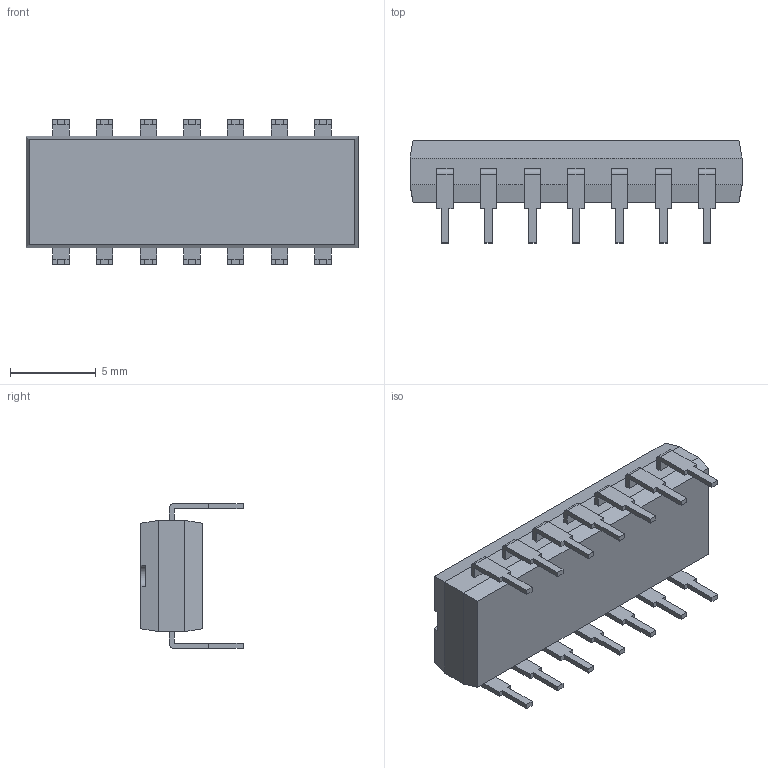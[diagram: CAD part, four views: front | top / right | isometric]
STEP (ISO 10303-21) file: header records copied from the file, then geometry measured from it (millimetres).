
FILE_DESCRIPTION (( 'STEP AP214' ), '1' );
FILE_NAME ( 'DIP813W45P254L1930H393Q14.STEP', '2021-10-06T06:49:12', ( '' ), ( '' ), '', '©2017 PCB Libraries, Inc.', '' );
FILE_SCHEMA (( 'AUTOMOTIVE_DESIGN' ));
Length unit declared in the file: millimetre
Products named in the file (1): DIP813W45P254L1930H393Q14
Bounding box: 19.3 x 5.94 x 8.42 mm (x, y, z)
Volume: 450.9 mm3; surface area: 568.2 mm2
Topology: 15 solids, 15 shells, 214 faces, 544 edges, 360 vertices
Faces by surface type: plane 185, cylinder 29
Entity records: 7148 total; most frequent: CARTESIAN_POINT 1119, ORIENTED_EDGE 1088, DIRECTION 1032, EDGE_CURVE 544, VECTOR 486, LINE 486, VERTEX_POINT 360, AXIS2_PLACEMENT_3D 273
